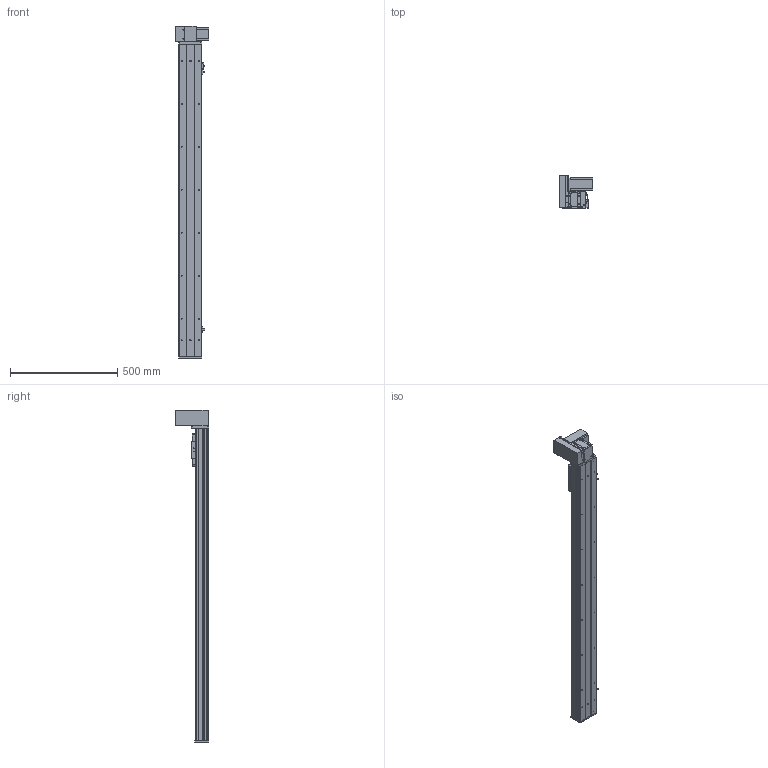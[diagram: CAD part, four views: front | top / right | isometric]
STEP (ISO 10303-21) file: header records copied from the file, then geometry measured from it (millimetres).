
FILE_DESCRIPTION (( 'STEP AP203' ), '1' );
FILE_NAME ('Y10CB-D90-S1200-UL-P400W.STEP', '2020-02-16T07:39:56', ( '微软用户' ), ( '微软中国' ), 'SwSTEP 2.0', 'SolidWorks 2017', '' );
FILE_SCHEMA (( 'CONFIG_CONTROL_DESIGN' ));
Length unit declared in the file: millimetre
Products named in the file (18): Y135C-陔俋离換覜結え-; san松下电机400不带刹车----; Y100-135俋离換覜ん--; 0B-源倛裔啣; Y10B-耜蚾蟀諉啣----; 0B-埴倛裔啣; 00B-俋欶BM--; 10CB-詩湍-; Y10B--々湍喘謫眊--666; Y10CB- 掛极耜裔啣-毀---; 0CB-雄赽釱---; Y10CB-D90-S1200-UL-P400W; Y10C---詩湍揤啣; 0Cb-俋欶---; 10CB9-掛极; Y10B-々湍喘謫眊楊擘啣--; 10CB-耜裔; 0B-萇儂楊擘啣
Assembly tree (21 placements, depth 2):
  Y10CB-D90-S1200-UL-P400W
    0CB-雄赽釱---
    0Cb-俋欶---
    Y10B-々湍喘謫眊楊擘啣--
    0B-萇儂楊擘啣
    san松下电机400不带刹车----
    0B-源倛裔啣
    0B-埴倛裔啣
    10CB-詩湍-
    Y10CB- 掛极耜裔啣-毀---  x2
    Y10C---詩湍揤啣  x2
    10CB9-掛极
    10CB-耜裔
    Y135C-陔俋离換覜結え-
    Y100-135俋离換覜ん--  x3
    Y10B-耜蚾蟀諉啣----
    00B-俋欶BM--
    Y10B--々湍喘謫眊--666
Bounding box: 157 x 155.5 x 1546 mm (x, y, z)
Volume: 3484866.8 mm3; surface area: 1587645 mm2
Topology: 21 solids, 21 shells, 1002 faces, 2683 edges, 1754 vertices
Faces by surface type: cylinder 499, plane 479, cone 24
Entity records: 31412 total; most frequent: CARTESIAN_POINT 5617, DIRECTION 5066, ORIENTED_EDGE 4836, EDGE_CURVE 2418, AXIS2_PLACEMENT_3D 1813, VERTEX_POINT 1580, VECTOR 1440, LINE 1440
